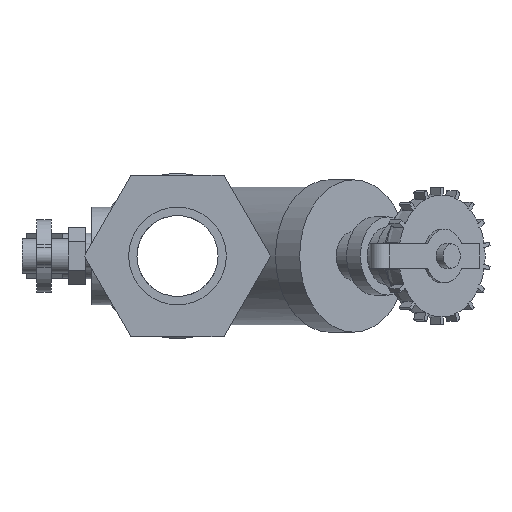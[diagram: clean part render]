
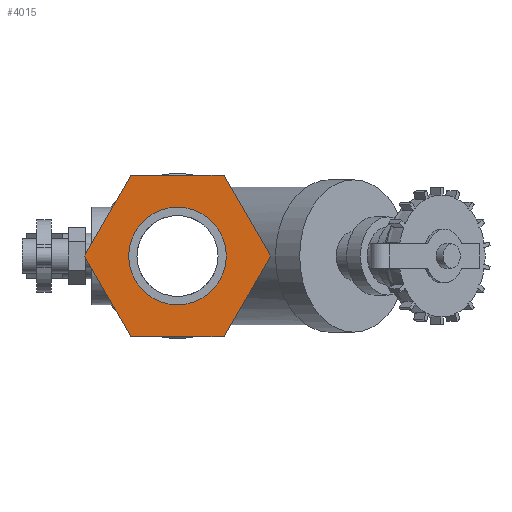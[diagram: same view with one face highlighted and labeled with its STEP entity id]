
A CAD part, left-side view. The second image highlights one B-rep face of the part: STEP entity #4015.
In plain terms, the highlighted planar face has unit normal (-1, 0, 0).
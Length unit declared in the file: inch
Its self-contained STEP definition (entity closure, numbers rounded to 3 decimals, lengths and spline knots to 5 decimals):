
#84=CIRCLE('',#4302,1.);
#268=PLANE('',#4301);
#409=FACE_BOUND('',#691,.T.);
#461=FACE_OUTER_BOUND('',#690,.T.);
#690=EDGE_LOOP('',(#2794,#2795,#2796,#2797,#2798,#2799));
#691=EDGE_LOOP('',(#2800));
#937=LINE('',#6588,#1287);
#938=LINE('',#6590,#1288);
#939=LINE('',#6592,#1289);
#940=LINE('',#6594,#1290);
#941=LINE('',#6596,#1291);
#942=LINE('',#6597,#1292);
#1287=VECTOR('',#4846,0.3937);
#1288=VECTOR('',#4847,0.3937);
#1289=VECTOR('',#4848,0.3937);
#1290=VECTOR('',#4849,0.3937);
#1291=VECTOR('',#4850,0.3937);
#1292=VECTOR('',#4851,0.3937);
#1714=VERTEX_POINT('',#6586);
#1715=VERTEX_POINT('',#6587);
#1716=VERTEX_POINT('',#6589);
#1717=VERTEX_POINT('',#6591);
#1718=VERTEX_POINT('',#6593);
#1719=VERTEX_POINT('',#6595);
#1720=VERTEX_POINT('',#6598);
#2137=EDGE_CURVE('',#1714,#1715,#937,.T.);
#2138=EDGE_CURVE('',#1715,#1716,#938,.T.);
#2139=EDGE_CURVE('',#1716,#1717,#939,.T.);
#2140=EDGE_CURVE('',#1717,#1718,#940,.T.);
#2141=EDGE_CURVE('',#1718,#1719,#941,.T.);
#2142=EDGE_CURVE('',#1719,#1714,#942,.T.);
#2143=EDGE_CURVE('',#1720,#1720,#84,.T.);
#2794=ORIENTED_EDGE('',*,*,#2137,.T.);
#2795=ORIENTED_EDGE('',*,*,#2138,.T.);
#2796=ORIENTED_EDGE('',*,*,#2139,.T.);
#2797=ORIENTED_EDGE('',*,*,#2140,.T.);
#2798=ORIENTED_EDGE('',*,*,#2141,.T.);
#2799=ORIENTED_EDGE('',*,*,#2142,.T.);
#2800=ORIENTED_EDGE('',*,*,#2143,.F.);
#4015=ADVANCED_FACE('',(#461,#409),#268,.T.);
#4301=AXIS2_PLACEMENT_3D('',#6585,#4844,#4845);
#4302=AXIS2_PLACEMENT_3D('',#6599,#4852,#4853);
#4844=DIRECTION('center_axis',(-1.,0.,0.));
#4845=DIRECTION('ref_axis',(0.,0.,1.));
#4846=DIRECTION('',(0.,1.,0.));
#4847=DIRECTION('',(0.,0.5,-0.866));
#4848=DIRECTION('',(0.,-0.5,-0.866));
#4849=DIRECTION('',(0.,-1.,0.));
#4850=DIRECTION('',(0.,-0.5,0.866));
#4851=DIRECTION('',(0.,0.5,0.866));
#4852=DIRECTION('center_axis',(-1.,0.,0.));
#4853=DIRECTION('ref_axis',(0.,1.,0.));
#6585=CARTESIAN_POINT('Origin',(-6.41,0.,0.));
#6586=CARTESIAN_POINT('',(-6.41,-0.95263,1.65));
#6587=CARTESIAN_POINT('',(-6.41,0.95263,1.65));
#6588=CARTESIAN_POINT('',(-6.41,0.95263,1.65));
#6589=CARTESIAN_POINT('',(-6.41,1.90526,0.));
#6590=CARTESIAN_POINT('',(-6.41,1.90526,0.));
#6591=CARTESIAN_POINT('',(-6.41,0.95263,-1.65));
#6592=CARTESIAN_POINT('',(-6.41,0.95263,-1.65));
#6593=CARTESIAN_POINT('',(-6.41,-0.95263,-1.65));
#6594=CARTESIAN_POINT('',(-6.41,-0.95263,-1.65));
#6595=CARTESIAN_POINT('',(-6.41,-1.90526,0.));
#6596=CARTESIAN_POINT('',(-6.41,-1.90526,0.));
#6597=CARTESIAN_POINT('',(-6.41,-0.95263,1.65));
#6598=CARTESIAN_POINT('',(-6.41,-1.,0.));
#6599=CARTESIAN_POINT('Origin',(-6.41,0.,0.));
